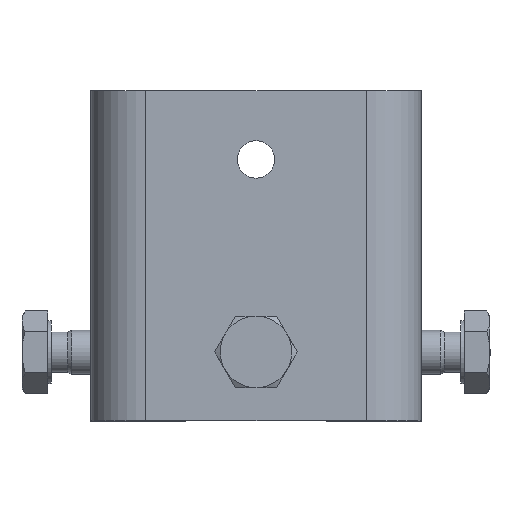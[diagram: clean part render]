
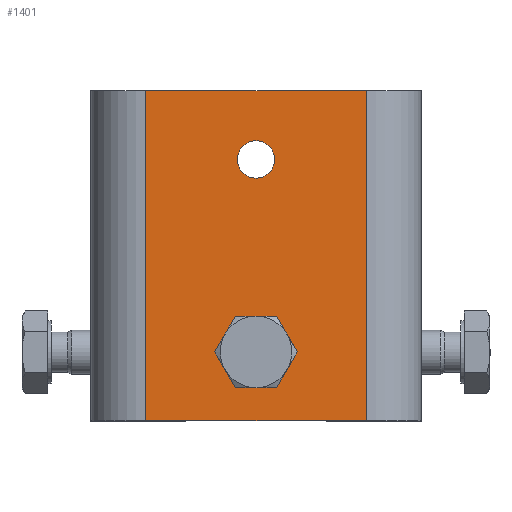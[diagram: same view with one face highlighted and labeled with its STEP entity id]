
A CAD part, top view. The second image highlights one B-rep face of the part: STEP entity #1401.
In plain terms, the highlighted planar face has unit normal (0, 0, 1).
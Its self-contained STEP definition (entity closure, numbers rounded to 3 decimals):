
#65=FACE_BOUND('',#217,.T.);
#66=FACE_BOUND('',#218,.T.);
#121=FACE_OUTER_BOUND('',#216,.T.);
#216=EDGE_LOOP('',(#965,#966,#967,#968));
#217=EDGE_LOOP('',(#969));
#218=EDGE_LOOP('',(#970));
#340=LINE('',#2118,#464);
#342=LINE('',#2122,#466);
#343=LINE('',#2124,#467);
#344=LINE('',#2125,#468);
#464=VECTOR('',#1677,60.);
#466=VECTOR('',#1681,40.);
#467=VECTOR('',#1682,60.);
#468=VECTOR('',#1683,40.);
#586=CIRCLE('',#1504,3.324);
#587=CIRCLE('',#1505,3.4);
#642=VERTEX_POINT('',#2102);
#645=VERTEX_POINT('',#2109);
#647=VERTEX_POINT('',#2121);
#648=VERTEX_POINT('',#2123);
#649=VERTEX_POINT('',#2126);
#650=VERTEX_POINT('',#2128);
#766=EDGE_CURVE('',#642,#645,#340,.T.);
#768=EDGE_CURVE('',#645,#647,#342,.T.);
#769=EDGE_CURVE('',#647,#648,#343,.T.);
#770=EDGE_CURVE('',#648,#642,#344,.T.);
#771=EDGE_CURVE('',#649,#649,#586,.T.);
#772=EDGE_CURVE('',#650,#650,#587,.T.);
#965=ORIENTED_EDGE('',*,*,#766,.T.);
#966=ORIENTED_EDGE('',*,*,#768,.T.);
#967=ORIENTED_EDGE('',*,*,#769,.T.);
#968=ORIENTED_EDGE('',*,*,#770,.T.);
#969=ORIENTED_EDGE('',*,*,#771,.T.);
#970=ORIENTED_EDGE('',*,*,#772,.T.);
#1337=PLANE('',#1503);
#1401=ADVANCED_FACE('',(#121,#65,#66),#1337,.T.);
#1503=AXIS2_PLACEMENT_3D('',#2120,#1679,#1680);
#1504=AXIS2_PLACEMENT_3D('',#2127,#1684,#1685);
#1505=AXIS2_PLACEMENT_3D('',#2129,#1686,#1687);
#1677=DIRECTION('',(0.,1.,0.));
#1679=DIRECTION('center_axis',(0.,0.,1.));
#1680=DIRECTION('ref_axis',(1.,0.,0.));
#1681=DIRECTION('',(-1.,0.,0.));
#1682=DIRECTION('',(0.,-1.,0.));
#1683=DIRECTION('',(1.,0.,0.));
#1684=DIRECTION('center_axis',(0.,0.,-1.));
#1685=DIRECTION('ref_axis',(1.,0.,0.));
#1686=DIRECTION('center_axis',(0.,0.,-1.));
#1687=DIRECTION('ref_axis',(-1.,0.,0.));
#2102=CARTESIAN_POINT('',(20.,-30.,0.));
#2109=CARTESIAN_POINT('',(20.,30.,0.));
#2118=CARTESIAN_POINT('',(20.,15.,0.));
#2120=CARTESIAN_POINT('Origin',(65.,0.,0.));
#2121=CARTESIAN_POINT('',(-20.,30.,0.));
#2122=CARTESIAN_POINT('',(81.679,30.,0.));
#2123=CARTESIAN_POINT('',(-20.,-30.,0.));
#2124=CARTESIAN_POINT('',(-20.,-15.,0.));
#2125=CARTESIAN_POINT('',(-81.679,-30.,0.));
#2126=CARTESIAN_POINT('',(3.324,-17.5,0.));
#2127=CARTESIAN_POINT('Origin',(0.,-17.5,0.));
#2128=CARTESIAN_POINT('',(3.4,17.5,0.));
#2129=CARTESIAN_POINT('Origin',(0.,17.5,0.));
